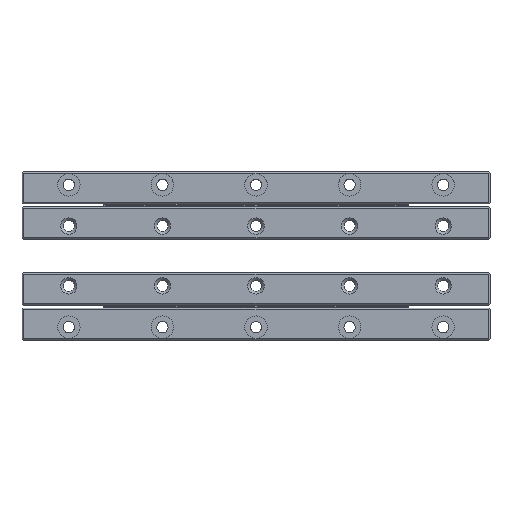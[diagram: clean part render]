
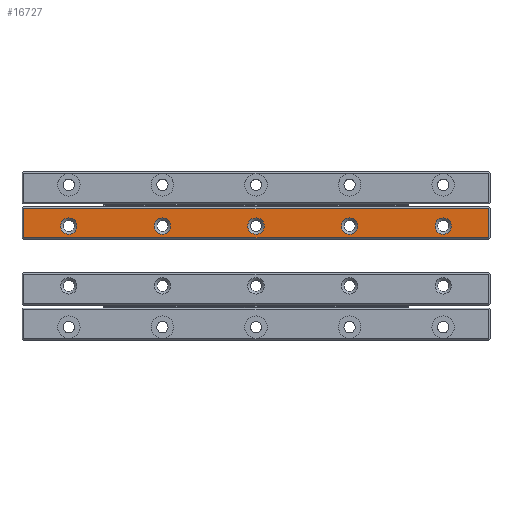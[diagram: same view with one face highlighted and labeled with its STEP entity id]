
A CAD part, top view. The second image highlights one B-rep face of the part: STEP entity #16727.
In plain terms, the highlighted planar face has unit normal (0, 0, 1).
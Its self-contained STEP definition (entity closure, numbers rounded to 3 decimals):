
#2906=LINE('',#103240,#7986);
#2907=LINE('',#103243,#7987);
#2908=LINE('',#103245,#7988);
#2909=LINE('',#103247,#7989);
#7986=VECTOR('',#80218,1.);
#7987=VECTOR('',#80219,1.);
#7988=VECTOR('',#80220,1.);
#7989=VECTOR('',#80221,1.);
#14137=FACE_BOUND('',#24908,.T.);
#14138=FACE_BOUND('',#24909,.T.);
#14139=FACE_BOUND('',#24910,.T.);
#14140=FACE_BOUND('',#24911,.T.);
#14141=FACE_BOUND('',#24912,.T.);
#14142=FACE_BOUND('',#24913,.T.);
#16727=ADVANCED_FACE('',(#14137,#14138,#14139,#14140,#14141,#14142),#18523,
 .T.);
#18523=PLANE('',#66194);
#24908=EDGE_LOOP('',(#37862));
#24909=EDGE_LOOP('',(#37863));
#24910=EDGE_LOOP('',(#37864));
#24911=EDGE_LOOP('',(#37865));
#24912=EDGE_LOOP('',(#37866));
#24913=EDGE_LOOP('',(#37867,#37868,#37869,#37870));
#37862=ORIENTED_EDGE('',*,*,#54918,.T.);
#37863=ORIENTED_EDGE('',*,*,#54919,.T.);
#37864=ORIENTED_EDGE('',*,*,#54920,.T.);
#37865=ORIENTED_EDGE('',*,*,#54921,.T.);
#37866=ORIENTED_EDGE('',*,*,#54922,.T.);
#37867=ORIENTED_EDGE('',*,*,#54923,.T.);
#37868=ORIENTED_EDGE('',*,*,#54924,.T.);
#37869=ORIENTED_EDGE('',*,*,#54925,.T.);
#37870=ORIENTED_EDGE('',*,*,#54926,.T.);
#47210=VERTEX_POINT('',#103231);
#47211=VERTEX_POINT('',#103233);
#47212=VERTEX_POINT('',#103235);
#47213=VERTEX_POINT('',#103237);
#47214=VERTEX_POINT('',#103239);
#47215=VERTEX_POINT('',#103241);
#47216=VERTEX_POINT('',#103242);
#47217=VERTEX_POINT('',#103244);
#47218=VERTEX_POINT('',#103246);
#54918=EDGE_CURVE('',#47210,#47210,#60936,.T.);
#54919=EDGE_CURVE('',#47211,#47211,#60937,.T.);
#54920=EDGE_CURVE('',#47212,#47212,#60938,.T.);
#54921=EDGE_CURVE('',#47213,#47213,#60939,.T.);
#54922=EDGE_CURVE('',#47214,#47214,#60940,.T.);
#54923=EDGE_CURVE('',#47215,#47216,#2906,.T.);
#54924=EDGE_CURVE('',#47216,#47217,#2907,.T.);
#54925=EDGE_CURVE('',#47217,#47218,#2908,.T.);
#54926=EDGE_CURVE('',#47218,#47215,#2909,.T.);
#60936=CIRCLE('',#66189,2.175);
#60937=CIRCLE('',#66190,2.175);
#60938=CIRCLE('',#66191,2.175);
#60939=CIRCLE('',#66192,2.175);
#60940=CIRCLE('',#66193,2.175);
#66189=AXIS2_PLACEMENT_3D('',#103230,#80208,#80209);
#66190=AXIS2_PLACEMENT_3D('',#103232,#80210,#80211);
#66191=AXIS2_PLACEMENT_3D('',#103234,#80212,#80213);
#66192=AXIS2_PLACEMENT_3D('',#103236,#80214,#80215);
#66193=AXIS2_PLACEMENT_3D('',#103238,#80216,#80217);
#66194=AXIS2_PLACEMENT_3D('',#103248,#80222,#80223);
#80208=DIRECTION('',(0.,0.,-1.));
#80209=DIRECTION('',(-1.,0.,0.));
#80210=DIRECTION('',(0.,0.,-1.));
#80211=DIRECTION('',(-1.,0.,0.));
#80212=DIRECTION('',(0.,0.,-1.));
#80213=DIRECTION('',(-1.,0.,0.));
#80214=DIRECTION('',(0.,0.,-1.));
#80215=DIRECTION('',(-1.,0.,0.));
#80216=DIRECTION('',(0.,0.,-1.));
#80217=DIRECTION('',(-1.,0.,0.));
#80218=DIRECTION('',(1.,0.,0.));
#80219=DIRECTION('',(0.,1.,0.));
#80220=DIRECTION('',(-1.,0.,0.));
#80221=DIRECTION('',(0.,-1.,0.));
#80222=DIRECTION('',(0.,0.,1.));
#80223=DIRECTION('',(1.,0.,0.));
#103230=CARTESIAN_POINT('',(12.5,30.5,8.));
#103231=CARTESIAN_POINT('',(10.325,30.5,8.));
#103232=CARTESIAN_POINT('',(37.5,30.5,8.));
#103233=CARTESIAN_POINT('',(35.325,30.5,8.));
#103234=CARTESIAN_POINT('',(62.5,30.5,8.));
#103235=CARTESIAN_POINT('',(60.325,30.5,8.));
#103236=CARTESIAN_POINT('',(87.5,30.5,8.));
#103237=CARTESIAN_POINT('',(85.325,30.5,8.));
#103238=CARTESIAN_POINT('',(112.5,30.5,8.));
#103239=CARTESIAN_POINT('',(110.325,30.5,8.));
#103240=CARTESIAN_POINT('',(62.5,27.425,8.));
#103241=CARTESIAN_POINT('',(0.425,27.425,8.));
#103242=CARTESIAN_POINT('',(124.575,27.425,8.));
#103243=CARTESIAN_POINT('',(124.575,31.3,8.));
#103244=CARTESIAN_POINT('',(124.575,35.175,8.));
#103245=CARTESIAN_POINT('',(62.5,35.175,8.));
#103246=CARTESIAN_POINT('',(0.425,35.175,8.));
#103247=CARTESIAN_POINT('',(0.425,31.3,8.));
#103248=CARTESIAN_POINT('',(62.5,31.3,8.));
